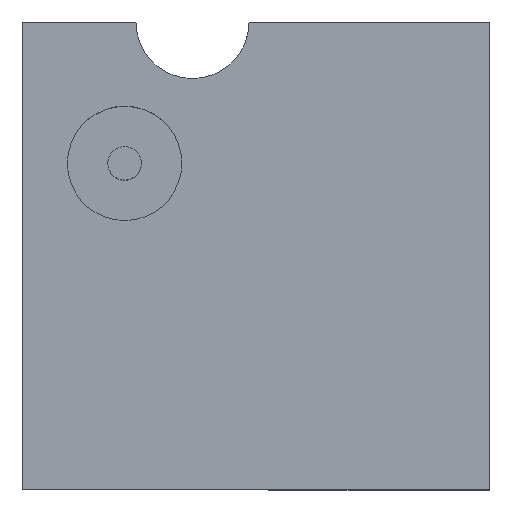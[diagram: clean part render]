
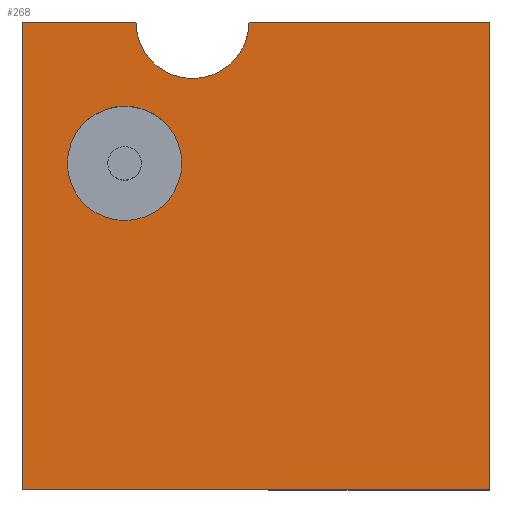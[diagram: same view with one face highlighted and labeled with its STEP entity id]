
A CAD part, top view. The second image highlights one B-rep face of the part: STEP entity #268.
In plain terms, the highlighted planar face has unit normal (0, 0, 1).
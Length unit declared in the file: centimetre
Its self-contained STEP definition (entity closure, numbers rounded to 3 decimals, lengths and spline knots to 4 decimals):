
#16 = CARTESIAN_POINT ( 'NONE',  ( 0., 0., 1000. ) ) ;
#19 = AXIS2_PLACEMENT_3D ( 'NONE', #484, #227, #515 ) ;
#39 = ORIENTED_EDGE ( 'NONE', *, *, #512, .T. ) ;
#53 = LINE ( 'NONE', #342, #149 ) ;
#58 = LINE ( 'NONE', #881, #529 ) ;
#68 = DIRECTION ( 'NONE',  ( 1., 0., 0. ) ) ;
#69 = CARTESIAN_POINT ( 'NONE',  ( 1000., 1000., 1000. ) ) ;
#71 = DIRECTION ( 'NONE',  ( 0., 0., 1. ) ) ;
#73 = CARTESIAN_POINT ( 'NONE',  ( 96.3478, 697.3571, 1000. ) ) ;
#83 = EDGE_CURVE ( 'NONE', #299, #708, #623, .T. ) ;
#88 = CARTESIAN_POINT ( 'NONE',  ( 0., 1000., 1000. ) ) ;
#109 = VECTOR ( 'NONE', #566, 100. ) ;
#125 = ORIENTED_EDGE ( 'NONE', *, *, #855, .F. ) ;
#141 = CARTESIAN_POINT ( 'NONE',  ( 364.0601, 1000., 1000. ) ) ;
#149 = VECTOR ( 'NONE', #200, 100. ) ;
#150 = VECTOR ( 'NONE', #288, 100. ) ;
#158 = ORIENTED_EDGE ( 'NONE', *, *, #831, .F. ) ;
#179 = CIRCLE ( 'NONE', #745, 122.3854 ) ;
#188 = EDGE_CURVE ( 'NONE', #450, #865, #58, .T. ) ;
#200 = DIRECTION ( 'NONE',  ( -1., 0., 0. ) ) ;
#209 = PLANE ( 'NONE',  #383 ) ;
#227 = DIRECTION ( 'NONE',  ( 0., 0., 1. ) ) ;
#253 = DIRECTION ( 'NONE',  ( 0., -1., 0. ) ) ;
#258 = VECTOR ( 'NONE', #352, 100. ) ;
#268 = ADVANCED_FACE ( 'NONE', ( #563, #560 ), #209, .T. ) ;
#269 = VERTEX_POINT ( 'NONE', #839 ) ;
#277 = LINE ( 'NONE', #69, #258 ) ;
#288 = DIRECTION ( 'NONE',  ( -1., 0., 0. ) ) ;
#294 = EDGE_LOOP ( 'NONE', ( #125, #874 ) ) ;
#299 = VERTEX_POINT ( 'NONE', #73 ) ;
#303 = ORIENTED_EDGE ( 'NONE', *, *, #704, .T. ) ;
#334 = CIRCLE ( 'NONE', #830, 121.0151 ) ;
#335 = CARTESIAN_POINT ( 'NONE',  ( 218.7332, 697.3571, 1000. ) ) ;
#342 = CARTESIAN_POINT ( 'NONE',  ( 0., 1000., 1000. ) ) ;
#344 = CARTESIAN_POINT ( 'NONE',  ( 485.0752, 1000., 1000. ) ) ;
#345 = EDGE_CURVE ( 'NONE', #269, #379, #277, .T. ) ;
#352 = DIRECTION ( 'NONE',  ( 0., 1., 0. ) ) ;
#354 = VERTEX_POINT ( 'NONE', #769 ) ;
#360 = ORIENTED_EDGE ( 'NONE', *, *, #760, .T. ) ;
#377 = VERTEX_POINT ( 'NONE', #344 ) ;
#379 = VERTEX_POINT ( 'NONE', #892 ) ;
#383 = AXIS2_PLACEMENT_3D ( 'NONE', #711, #703, #842 ) ;
#409 = ORIENTED_EDGE ( 'NONE', *, *, #345, .T. ) ;
#414 = CARTESIAN_POINT ( 'NONE',  ( 0., 0., 1000. ) ) ;
#428 = EDGE_LOOP ( 'NONE', ( #158, #303, #639, #360, #409, #39 ) ) ;
#446 = LINE ( 'NONE', #88, #150 ) ;
#449 = CARTESIAN_POINT ( 'NONE',  ( 0., 1000., 1000. ) ) ;
#450 = VERTEX_POINT ( 'NONE', #449 ) ;
#470 = CARTESIAN_POINT ( 'NONE',  ( 341.1186, 697.3571, 1000. ) ) ;
#484 = CARTESIAN_POINT ( 'NONE',  ( 218.7332, 697.3571, 1000. ) ) ;
#512 = EDGE_CURVE ( 'NONE', #379, #377, #446, .T. ) ;
#515 = DIRECTION ( 'NONE',  ( 1., 0., 0. ) ) ;
#529 = VECTOR ( 'NONE', #253, 100. ) ;
#560 = FACE_BOUND ( 'NONE', #294, .T. ) ;
#563 = FACE_OUTER_BOUND ( 'NONE', #428, .T. ) ;
#566 = DIRECTION ( 'NONE',  ( 1., 0., 0. ) ) ;
#623 = CIRCLE ( 'NONE', #19, 122.3854 ) ;
#639 = ORIENTED_EDGE ( 'NONE', *, *, #188, .T. ) ;
#687 = DIRECTION ( 'NONE',  ( 1., 0., 0. ) ) ;
#696 = DIRECTION ( 'NONE',  ( 0., 0., 1. ) ) ;
#703 = DIRECTION ( 'NONE',  ( 0., 0., 1. ) ) ;
#704 = EDGE_CURVE ( 'NONE', #354, #450, #53, .T. ) ;
#708 = VERTEX_POINT ( 'NONE', #470 ) ;
#711 = CARTESIAN_POINT ( 'NONE',  ( 0., 0., 1000. ) ) ;
#745 = AXIS2_PLACEMENT_3D ( 'NONE', #335, #696, #68 ) ;
#760 = EDGE_CURVE ( 'NONE', #865, #269, #761, .T. ) ;
#761 = LINE ( 'NONE', #414, #109 ) ;
#769 = CARTESIAN_POINT ( 'NONE',  ( 243.0449, 1000., 1000. ) ) ;
#830 = AXIS2_PLACEMENT_3D ( 'NONE', #141, #71, #687 ) ;
#831 = EDGE_CURVE ( 'NONE', #354, #377, #334, .T. ) ;
#839 = CARTESIAN_POINT ( 'NONE',  ( 1000., 0., 1000. ) ) ;
#842 = DIRECTION ( 'NONE',  ( 1., 0., 0. ) ) ;
#855 = EDGE_CURVE ( 'NONE', #708, #299, #179, .T. ) ;
#865 = VERTEX_POINT ( 'NONE', #16 ) ;
#874 = ORIENTED_EDGE ( 'NONE', *, *, #83, .F. ) ;
#881 = CARTESIAN_POINT ( 'NONE',  ( 0., 1000., 1000. ) ) ;
#892 = CARTESIAN_POINT ( 'NONE',  ( 1000., 1000., 1000. ) ) ;
